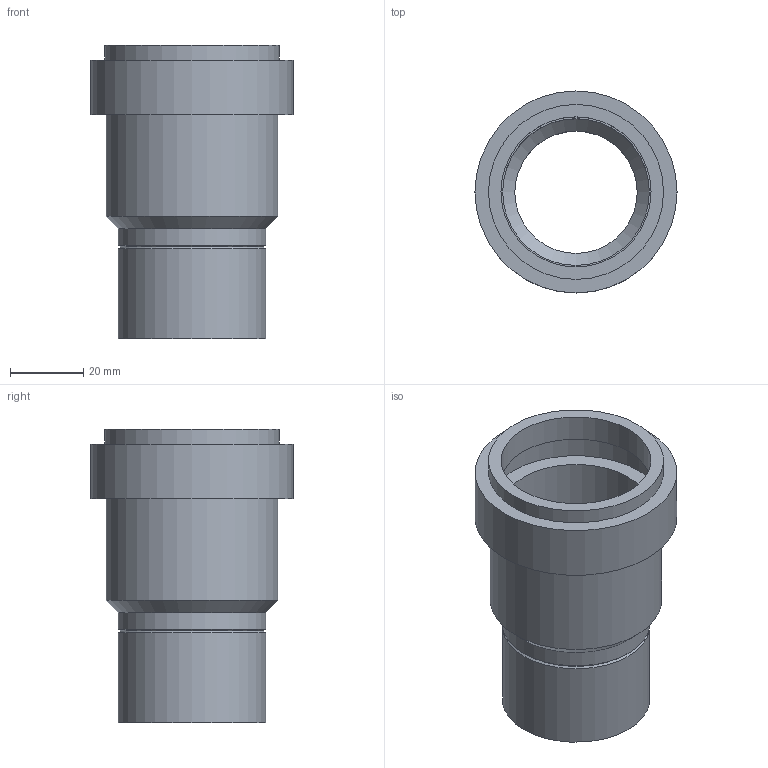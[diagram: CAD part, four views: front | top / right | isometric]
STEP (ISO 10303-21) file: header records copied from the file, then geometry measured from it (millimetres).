
FILE_DESCRIPTION(/* description */ (''),/* implementation_level */ '2;1');
FILE_NAME(/* name */ 'C:\Geberit-Teile\Export 2019\360.779.16.3\stp\360779.stp',/* time_stamp */ '2019-06-06T10:44:56+02:00',/* author */ ('JANAN'),/* organization */ (''),/* preprocessor_version */ 'ST-DEVELOPER v16.13',/* originating_system */ 'Autodesk Inventor 2018',/* authorisation */ '');
FILE_SCHEMA (('AUTOMOTIVE_DESIGN { 1 0 10303 214 3 1 1 }'));
Length unit declared in the file: millimetre
Products named in the file (1): StMuf mit LipDicht PE-HD d40 L8
Bounding box: 55.15 x 55.15 x 80 mm (x, y, z)
Volume: 40476.3 mm3; surface area: 24744.9 mm2
Topology: 1 solids, 1 shells, 19 faces, 34 edges, 21 vertices
Faces by surface type: cylinder 9, plane 6, cone 4
Full cylindrical faces by diameter (mm): 33.4 x1, 40.05 x1, 40.2 x2, 40.95 x1, 46.85 x1, 47.75 x1, 48.35 x1, 55.15 x1
Entity records: 446 total; most frequent: DIRECTION 78, CARTESIAN_POINT 58, AXIS2_PLACEMENT_3D 39, EDGE_LOOP 38, ORIENTED_EDGE 38, STYLED_ITEM 20, FACE_BOUND 19, FACE_OUTER_BOUND 19
